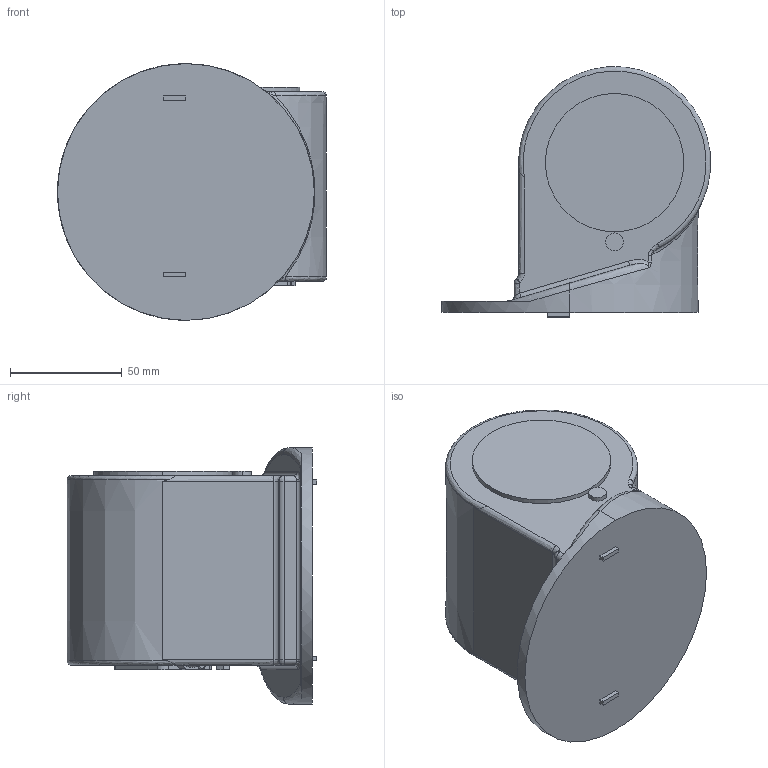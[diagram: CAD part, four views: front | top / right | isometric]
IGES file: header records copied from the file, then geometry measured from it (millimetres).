
Start section:  PTC IGES file: s_axis.igs
Global section: file name: s_axis.igs; native system: Creo Parametric by Parametric Technology Corporation; preprocessor: 2014000; author: Miyoshi_Nozomi; organization: Unknown; date: 20170420.143811; units: millimetre
Bounding box: 120.43 x 111.92 x 115 mm (x, y, z)
Volume: 736504.8 mm3; surface area: 53838.7 mm2
Topology: 1 solids, 1 shells, 113 faces, 281 edges, 177 vertices
Faces by surface type: bspline 72, revolution 41
